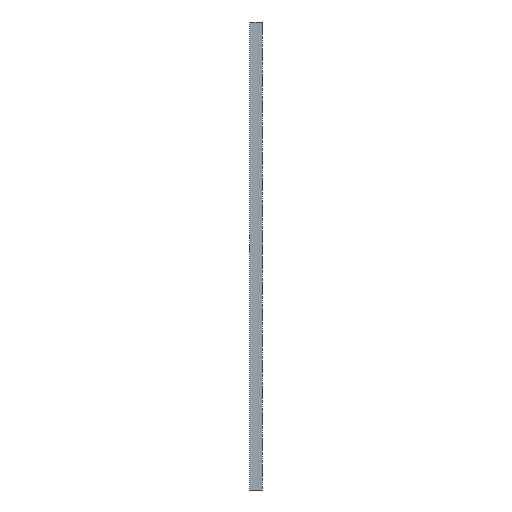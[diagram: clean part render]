
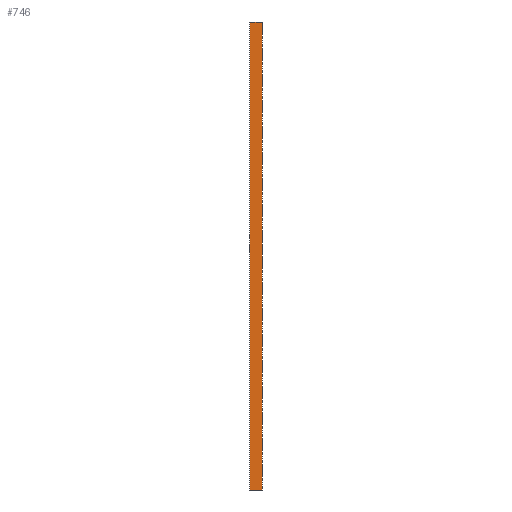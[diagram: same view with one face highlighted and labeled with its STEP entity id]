
A CAD part, left-side view. The second image highlights one B-rep face of the part: STEP entity #746.
In plain terms, the highlighted planar face has unit normal (-1, 0, 0).
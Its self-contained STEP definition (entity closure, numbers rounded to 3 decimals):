
#62 = VERTEX_POINT ( 'NONE', #8701 ) ;
#198 = LINE ( 'NONE', #9641, #2049 ) ;
#592 = FACE_OUTER_BOUND ( 'NONE', #4021, .T. ) ;
#620 = CARTESIAN_POINT ( 'NONE',  ( 0., 0., 1500. ) ) ;
#746 = ADVANCED_FACE ( 'NONE', ( #592 ), #2956, .F. ) ;
#1144 = ORIENTED_EDGE ( 'NONE', *, *, #4940, .F. ) ;
#1398 = VECTOR ( 'NONE', #9857, 1000. ) ;
#1699 = ORIENTED_EDGE ( 'NONE', *, *, #2586, .T. ) ;
#2049 = VECTOR ( 'NONE', #4953, 1000. ) ;
#2392 = LINE ( 'NONE', #5526, #5683 ) ;
#2408 = ORIENTED_EDGE ( 'NONE', *, *, #2835, .F. ) ;
#2586 = EDGE_CURVE ( 'NONE', #5712, #8621, #5124, .T. ) ;
#2835 = EDGE_CURVE ( 'NONE', #62, #8621, #198, .T. ) ;
#2956 = PLANE ( 'NONE',  #8360 ) ;
#3251 = DIRECTION ( 'NONE',  ( 0., -1., 0. ) ) ;
#3348 = VECTOR ( 'NONE', #3251, 1000. ) ;
#3414 = ORIENTED_EDGE ( 'NONE', *, *, #7204, .T. ) ;
#4021 = EDGE_LOOP ( 'NONE', ( #1699, #2408, #1144, #3414 ) ) ;
#4096 = CARTESIAN_POINT ( 'NONE',  ( 0., 0., 1500. ) ) ;
#4940 = EDGE_CURVE ( 'NONE', #9803, #62, #9431, .T. ) ;
#4953 = DIRECTION ( 'NONE',  ( 0., 0., -1. ) ) ;
#5124 = LINE ( 'NONE', #5990, #1398 ) ;
#5526 = CARTESIAN_POINT ( 'NONE',  ( 0., 83., 1500. ) ) ;
#5683 = VECTOR ( 'NONE', #9592, 1000. ) ;
#5712 = VERTEX_POINT ( 'NONE', #7666 ) ;
#5990 = CARTESIAN_POINT ( 'NONE',  ( 0., 0., -1500. ) ) ;
#6216 = CARTESIAN_POINT ( 'NONE',  ( 0., 0., -1500. ) ) ;
#6902 = DIRECTION ( 'NONE',  ( 0., 0., -1. ) ) ;
#7204 = EDGE_CURVE ( 'NONE', #9803, #5712, #2392, .T. ) ;
#7666 = CARTESIAN_POINT ( 'NONE',  ( 0., 83., -1500. ) ) ;
#7771 = DIRECTION ( 'NONE',  ( 1., 0., 0. ) ) ;
#8360 = AXIS2_PLACEMENT_3D ( 'NONE', #620, #7771, #6902 ) ;
#8384 = CARTESIAN_POINT ( 'NONE',  ( 0., 83., 1500. ) ) ;
#8621 = VERTEX_POINT ( 'NONE', #6216 ) ;
#8701 = CARTESIAN_POINT ( 'NONE',  ( 0., 0., 1500. ) ) ;
#9431 = LINE ( 'NONE', #4096, #3348 ) ;
#9592 = DIRECTION ( 'NONE',  ( 0., 0., -1. ) ) ;
#9641 = CARTESIAN_POINT ( 'NONE',  ( 0., 0., 1500. ) ) ;
#9803 = VERTEX_POINT ( 'NONE', #8384 ) ;
#9857 = DIRECTION ( 'NONE',  ( 0., -1., 0. ) ) ;
